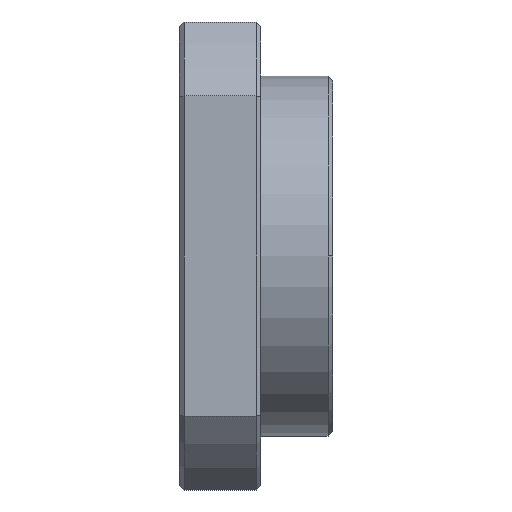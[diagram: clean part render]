
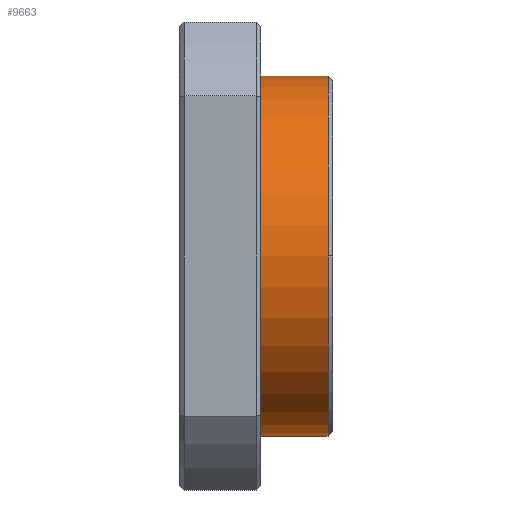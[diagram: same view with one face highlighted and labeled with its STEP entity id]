
A CAD part, front view. The second image highlights one B-rep face of the part: STEP entity #9663.
In plain terms, the highlighted cylindrical face has radius 20 mm (diameter 40 mm), a partial arc.
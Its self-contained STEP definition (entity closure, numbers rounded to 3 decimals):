
#541 = CIRCLE ( 'NONE', #15466, 20. ) ;
#1720 = DIRECTION ( 'NONE',  ( 0., 0., 1. ) ) ;
#1869 = CARTESIAN_POINT ( 'NONE',  ( -22.371, 32.093, -20. ) ) ;
#2107 = CARTESIAN_POINT ( 'NONE',  ( -22.371, 32.093, 20. ) ) ;
#2125 = VERTEX_POINT ( 'NONE', #14692 ) ;
#2635 = AXIS2_PLACEMENT_3D ( 'NONE', #4854, #19944, #1720 ) ;
#2855 = ORIENTED_EDGE ( 'NONE', *, *, #18488, .T. ) ;
#3095 = ORIENTED_EDGE ( 'NONE', *, *, #21347, .T. ) ;
#3133 = FACE_OUTER_BOUND ( 'NONE', #6124, .T. ) ;
#3933 = EDGE_CURVE ( 'NONE', #11474, #14455, #20341, .T. ) ;
#4613 = CIRCLE ( 'NONE', #16071, 20. ) ;
#4854 = CARTESIAN_POINT ( 'NONE',  ( -113.017, 32.093, 0. ) ) ;
#6124 = EDGE_LOOP ( 'NONE', ( #17399, #19230, #2855, #18888, #3095 ) ) ;
#6256 = DIRECTION ( 'NONE',  ( -1., 0., 0. ) ) ;
#6401 = VERTEX_POINT ( 'NONE', #1869 ) ;
#6602 = EDGE_CURVE ( 'NONE', #16189, #2125, #541, .T. ) ;
#6635 = DIRECTION ( 'NONE',  ( 0., 0., 1. ) ) ;
#7655 = CARTESIAN_POINT ( 'NONE',  ( -22.371, 32.093, 0. ) ) ;
#7887 = DIRECTION ( 'NONE',  ( 0., 0., 1. ) ) ;
#7908 = EDGE_CURVE ( 'NONE', #16189, #6401, #18640, .T. ) ;
#8034 = VECTOR ( 'NONE', #15882, 1000. ) ;
#8457 = CYLINDRICAL_SURFACE ( 'NONE', #2635, 20. ) ;
#9089 = DIRECTION ( 'NONE',  ( -1., 0., 0. ) ) ;
#9269 = DIRECTION ( 'NONE',  ( 1., 0., 0. ) ) ;
#9663 = ADVANCED_FACE ( 'NONE', ( #3133 ), #8457, .T. ) ;
#11474 = VERTEX_POINT ( 'NONE', #13636 ) ;
#11992 = CIRCLE ( 'NONE', #14406, 20. ) ;
#12553 = VECTOR ( 'NONE', #9089, 1000. ) ;
#13411 = CARTESIAN_POINT ( 'NONE',  ( -14.871, 32.093, -20. ) ) ;
#13636 = CARTESIAN_POINT ( 'NONE',  ( -14.871, 32.093, 20. ) ) ;
#14015 = DIRECTION ( 'NONE',  ( -1., 0., 0. ) ) ;
#14406 = AXIS2_PLACEMENT_3D ( 'NONE', #7655, #9269, #6635 ) ;
#14455 = VERTEX_POINT ( 'NONE', #2107 ) ;
#14692 = CARTESIAN_POINT ( 'NONE',  ( -14.871, 12.093, 0. ) ) ;
#15466 = AXIS2_PLACEMENT_3D ( 'NONE', #18169, #6256, #7887 ) ;
#15776 = CARTESIAN_POINT ( 'NONE',  ( -113.017, 32.093, 20. ) ) ;
#15882 = DIRECTION ( 'NONE',  ( -1., 0., 0. ) ) ;
#16071 = AXIS2_PLACEMENT_3D ( 'NONE', #18677, #14015, #18994 ) ;
#16189 = VERTEX_POINT ( 'NONE', #13411 ) ;
#16709 = CARTESIAN_POINT ( 'NONE',  ( -113.017, 32.093, -20. ) ) ;
#17399 = ORIENTED_EDGE ( 'NONE', *, *, #7908, .F. ) ;
#18169 = CARTESIAN_POINT ( 'NONE',  ( -14.871, 32.093, 0. ) ) ;
#18488 = EDGE_CURVE ( 'NONE', #2125, #11474, #4613, .T. ) ;
#18640 = LINE ( 'NONE', #16709, #12553 ) ;
#18677 = CARTESIAN_POINT ( 'NONE',  ( -14.871, 32.093, 0. ) ) ;
#18888 = ORIENTED_EDGE ( 'NONE', *, *, #3933, .T. ) ;
#18994 = DIRECTION ( 'NONE',  ( 0., 0., 1. ) ) ;
#19230 = ORIENTED_EDGE ( 'NONE', *, *, #6602, .T. ) ;
#19944 = DIRECTION ( 'NONE',  ( -1., 0., 0. ) ) ;
#20341 = LINE ( 'NONE', #15776, #8034 ) ;
#21347 = EDGE_CURVE ( 'NONE', #14455, #6401, #11992, .T. ) ;
